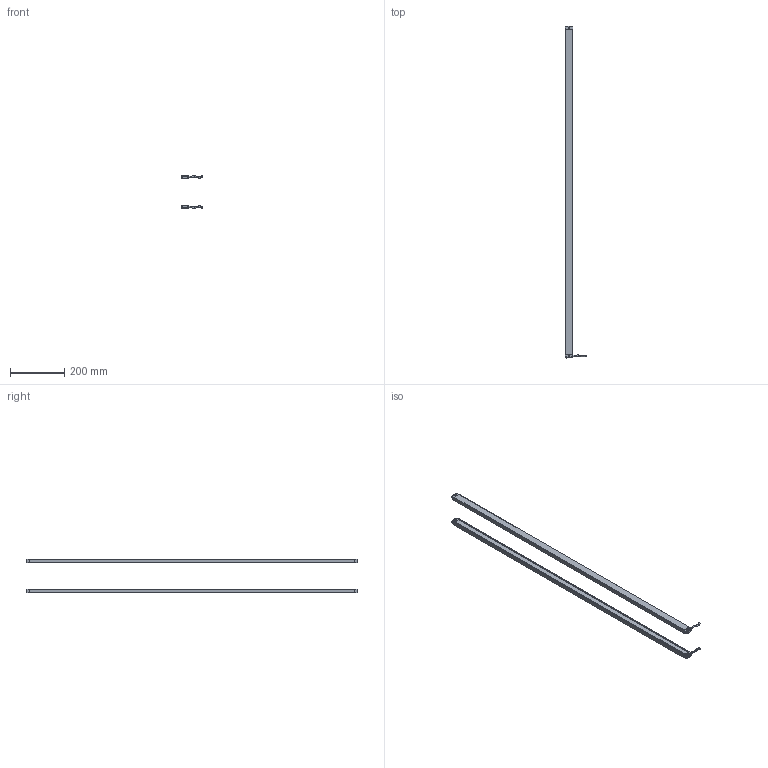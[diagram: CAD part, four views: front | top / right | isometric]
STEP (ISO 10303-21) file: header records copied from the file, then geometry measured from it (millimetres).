
FILE_DESCRIPTION (( 'STEP AP214' ), '1' );
FILE_NAME ('MTF3040.STEP', '2022-08-11T06:32:40', ( '' ), ( '' ), 'SwSTEP 2.0', 'SolidWorks 2018', '' );
FILE_SCHEMA (( 'AUTOMOTIVE_DESIGN' ));
Length unit declared in the file: millimetre
Products named in the file (7): 噩砃MTF-Bod; MTF3040; 噩砃MTF-Bot; MTF-Top; MTF-Bot; MTF-Bod; 噩砃MTF-Top
Assembly tree (6 placements, depth 2):
  MTF3040
    MTF-Bod
    MTF-Top
    MTF-Bot
    噩砃MTF-Bod
    噩砃MTF-Top
    噩砃MTF-Bot
Bounding box: 79.69 x 1226 x 125.02 mm (x, y, z)
Volume: 875545 mm3; surface area: 344947 mm2
Topology: 10 solids, 10 shells, 726 faces, 1942 edges, 1244 vertices
Faces by surface type: cylinder 334, plane 296, torus 56, bspline 40
Entity records: 27339 total; most frequent: CARTESIAN_POINT 10009, ORIENTED_EDGE 3884, DIRECTION 3108, EDGE_CURVE 1942, VERTEX_POINT 1244, VECTOR 1066, LINE 1066, AXIS2_PLACEMENT_3D 1021
